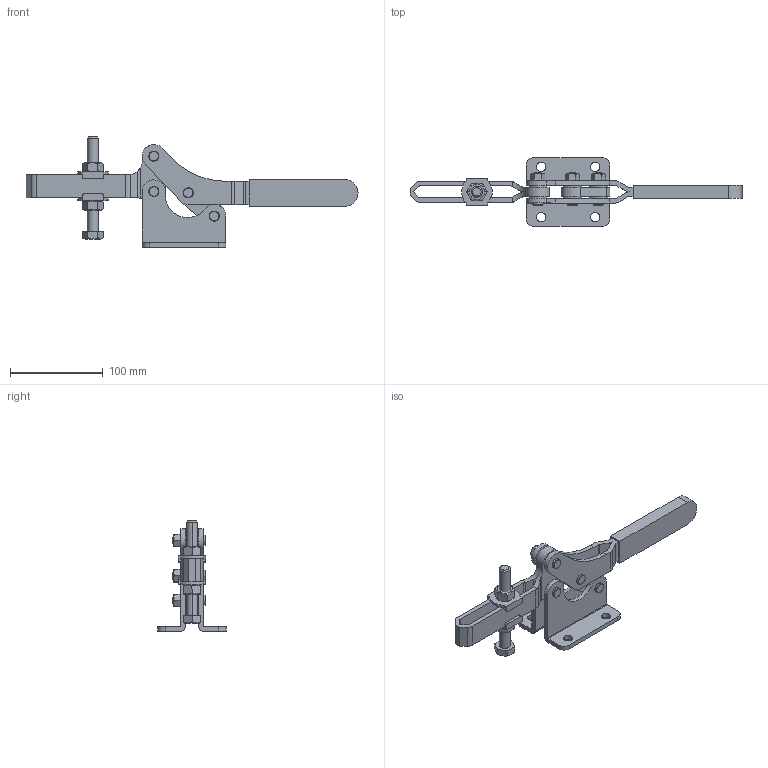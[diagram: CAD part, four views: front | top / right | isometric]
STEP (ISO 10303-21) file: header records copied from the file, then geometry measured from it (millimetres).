
FILE_DESCRIPTION(('CATIA V5 STEP Exchange'),'2;1');
FILE_NAME('D:\Model\toggle\toggle_standard\KJF_065_22F.stp','2005-06-24T03:04:45+00:00',('none'),('none'),'CATIA Version 5 Release 11 (IN-9)','CATIA V5 STEP AP203',' none');
FILE_SCHEMA(('CONFIG_CONTROL_DESIGN'));
Length unit declared in the file: millimetre
Products named in the file (1): Part1
Bounding box: 357 x 74 x 118.89 mm (x, y, z)
Volume: 246508.9 mm3; surface area: 104375 mm2
Topology: 26 solids, 26 shells, 372 faces, 924 edges, 608 vertices
Faces by surface type: plane 167, cylinder 117, cone 78, torus 10
Entity records: 11478 total; most frequent: CARTESIAN_POINT 3347, ORIENTED_EDGE 1848, DIRECTION 1276, EDGE_CURVE 924, VERTEX_POINT 608, AXIS2_PLACEMENT_3D 591, VECTOR 416, LINE 416
